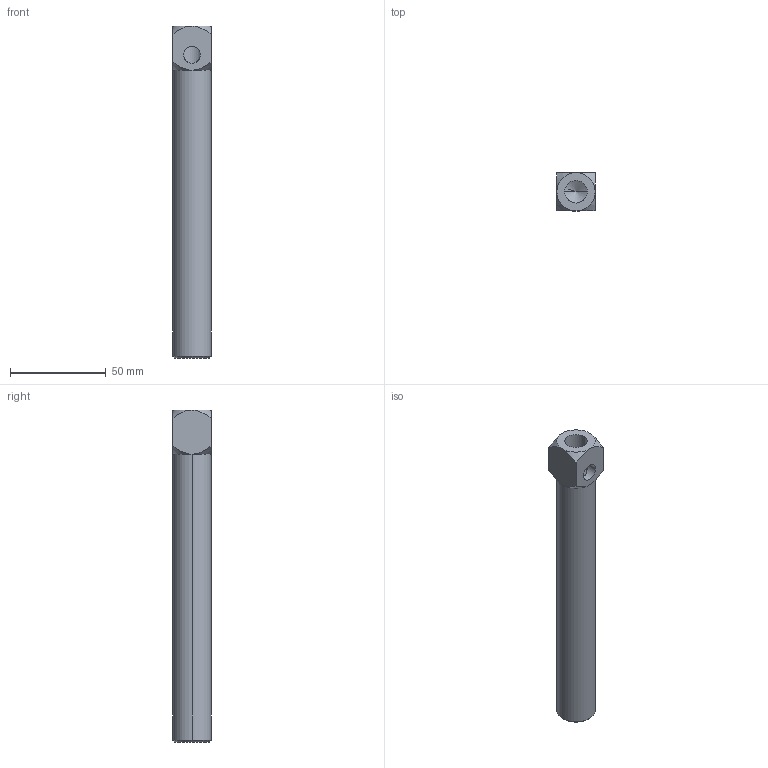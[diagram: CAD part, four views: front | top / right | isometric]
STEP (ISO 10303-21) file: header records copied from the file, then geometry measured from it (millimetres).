
FILE_DESCRIPTION (( 'STEP AP214' ), '1' );
FILE_NAME ('SVE-G1420150.STEP', '2023-01-29T03:35:57', ( 'Windows User' ), ( 'P R C' ), 'SwSTEP 2.0', 'SolidWorks 2019', '' );
FILE_SCHEMA (( 'AUTOMOTIVE_DESIGN' ));
Length unit declared in the file: millimetre
Products named in the file (1): SVE-G1420150
Bounding box: 20 x 20 x 173 mm (x, y, z)
Volume: 24183.4 mm3; surface area: 19876.6 mm2
Topology: 1 solids, 1 shells, 29 faces, 64 edges, 34 vertices
Faces by surface type: cone 16, cylinder 8, plane 5
Entity records: 1000 total; most frequent: CARTESIAN_POINT 370, DIRECTION 124, ORIENTED_EDGE 120, EDGE_CURVE 60, AXIS2_PLACEMENT_3D 52, VERTEX_POINT 34, EDGE_LOOP 32, FACE_OUTER_BOUND 29
